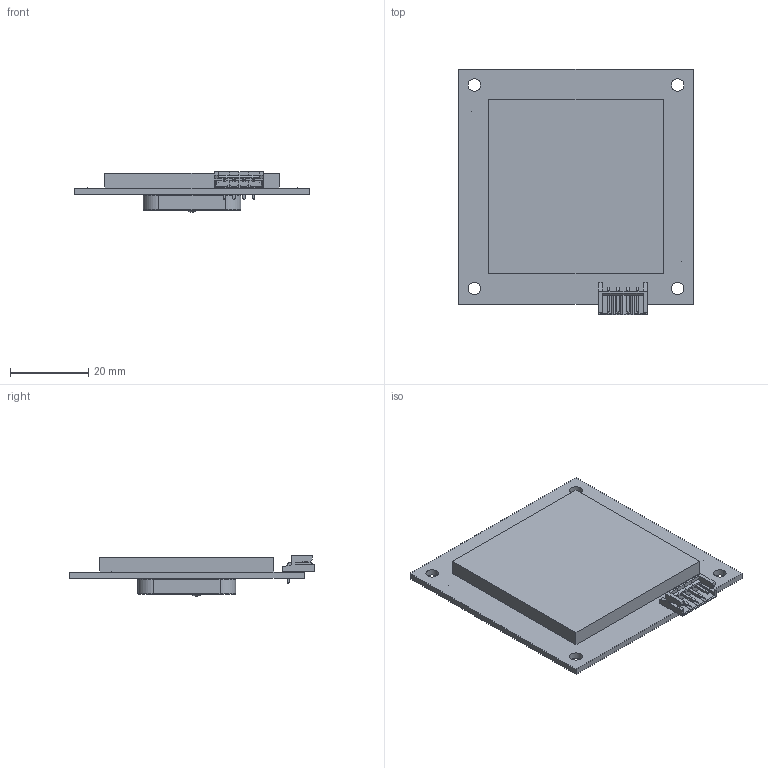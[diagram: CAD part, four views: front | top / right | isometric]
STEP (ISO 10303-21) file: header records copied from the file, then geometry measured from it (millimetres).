
FILE_DESCRIPTION(/* description */ (''),/* implementation_level */ '2;1');
FILE_NAME(/* name */ 'QRG2_0200 Step v6.step',/* time_stamp */ '2023-06-01T13:22:18+02:00',/* author */ (''),/* organization */ (''),/* preprocessor_version */ 'ST-DEVELOPER v19.2',/* originating_system */ 'Autodesk Translation Framework v12.4.0.73',/* authorisation */ '');
FILE_SCHEMA (('AUTOMOTIVE_DESIGN { 1 0 10303 214 3 1 1 }'));
Products named in the file (273): QRG2_0200; CAPC1005X061; CAPC1005X062; CAPC1005X60; CAPC1005X063; CAPC1005X064; CAPC1005X065; CAPC1005X066; CAPC1005X067; CAPC1005X068; CAPC1005X069; CAPC1005X070; CAPC1005X071; CAPC1005X072; CAPC1005X073; CAPC1005X074; CAPC3225X280; CAPC3225X281; CAPC3225X279; CAPC3225X282; CAPC3225X283; CAPC3225X284; CAPC1005X075; CAPC1005X076; CAPC1005X077; CAPC1005X078; CAPC1005X079; CAPC1005X080; CAPC1005X081; CAPC1005X082; CAPC1005X083; CAPC1005X084; CAPC1005X085; CAPC1005X086; CAPC1005X087; CAPC1005X088; CAPC1005X089; CAPC1005X090; CAPC1005X091; CAPC1005X092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
Assembly tree (272 placements, depth 3):
  QRG2_0200
    CAPC1005X061
    CAPC1005X062
    CAPC1005X60
    CAPC1005X063
    CAPC1005X064
    CAPC1005X065
    CAPC1005X066
    CAPC1005X067
    CAPC1005X068
    CAPC1005X069
    CAPC1005X070
    CAPC1005X071
    CAPC1005X072
    CAPC1005X073
    CAPC1005X074
    CAPC3225X280
    CAPC3225X281
    CAPC3225X279
    CAPC3225X282
    CAPC3225X283
    CAPC3225X284
    CAPC1005X075
    CAPC1005X076
    CAPC1005X077
    CAPC1005X078
    CAPC1005X079
    CAPC1005X080
    CAPC1005X081
    CAPC1005X082
    CAPC1005X083
    CAPC1005X084
    CAPC1005X085
    CAPC1005X086
    CAPC1005X087
    CAPC1005X088
    CAPC1005X089
    CAPC1005X090
    CAPC1005X091
    CAPC1005X092
    CAPC1005X093
    CAPC1005X094
    CAPC1005X095
    CAPC1005X096
    CAPC1005X097
    CAPC1005X098
    CAPC1005X099
    CAPC1005X100
    CAPC1005X101
    CAPC1005X102
    CAPC1005X103
    CAPC1005X104
    CAPC1005X105
    CAPC1005X106
    CAPC1005X107
    CAPC1005X108
    CAPC1005X109
    CAPC1005X110
    CAPC1005X111
    CAPC1005X112
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Bounding box: 60 x 62.7 x 10.46 mm (x, y, z)
Volume: 9449.2 mm3; surface area: 16409.4 mm2
Topology: 271 solids, 271 shells, 4021 faces, 9536 edges, 5696 vertices
Faces by surface type: plane 2413, cylinder 1144, sphere 385, bspline 69, torus 9, cone 1
Full cylindrical faces by diameter (mm): 0.5 x1, 0.8 x1, 2.1 x2, 3.2 x4
Entity records: 127377 total; most frequent: CARTESIAN_POINT 23659, DIRECTION 20297, ORIENTED_EDGE 18304, EDGE_CURVE 9152, AXIS2_PLACEMENT_3D 6786, LINE 6725, VECTOR 6725, VERTEX_POINT 5696
